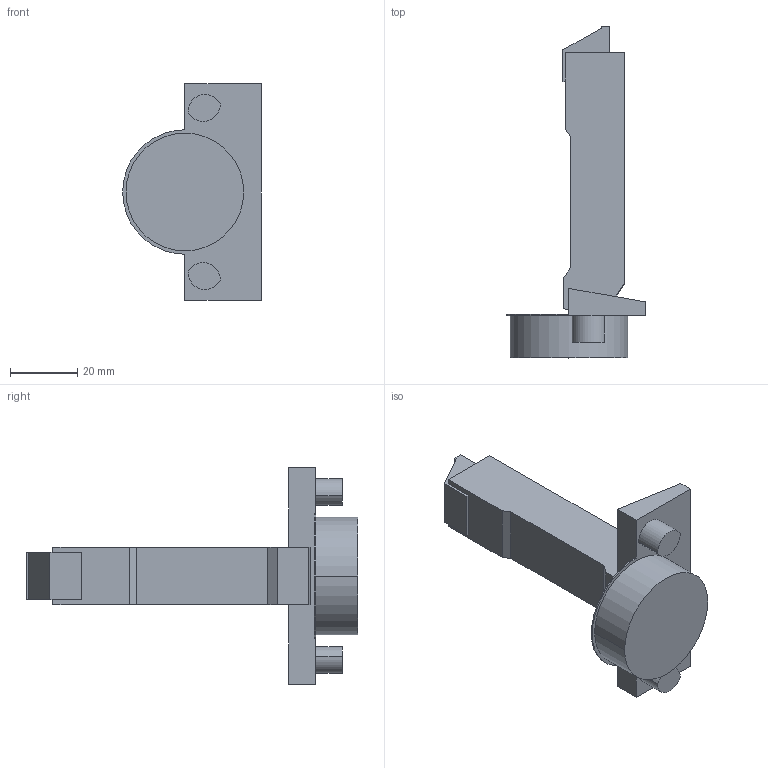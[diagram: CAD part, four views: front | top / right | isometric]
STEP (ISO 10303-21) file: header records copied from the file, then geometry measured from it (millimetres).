
FILE_DESCRIPTION (( 'STEP AP214' ), '1' );
FILE_NAME ('Scharnier TT Impresso 95° HS_BB, K03.step', '2018-10-02T12:12:29', ( '' ), ( '' ), 'SwSTEP 2.0', 'SolidWorks 2017', '' );
FILE_SCHEMA (( 'AUTOMOTIVE_DESIGN' ));
Length unit declared in the file: millimetre
Products named in the file (1): Scharnier TT Impresso 95° HS_BB, K03
Bounding box: 41.25 x 98.7 x 64.5 mm (x, y, z)
Volume: 43275.5 mm3; surface area: 12230.1 mm2
Topology: 1 solids, 1 shells, 50 faces, 126 edges, 84 vertices
Faces by surface type: plane 35, cylinder 15
Entity records: 1534 total; most frequent: CARTESIAN_POINT 261, DIRECTION 258, ORIENTED_EDGE 252, EDGE_CURVE 126, VECTOR 96, LINE 96, VERTEX_POINT 84, AXIS2_PLACEMENT_3D 81
